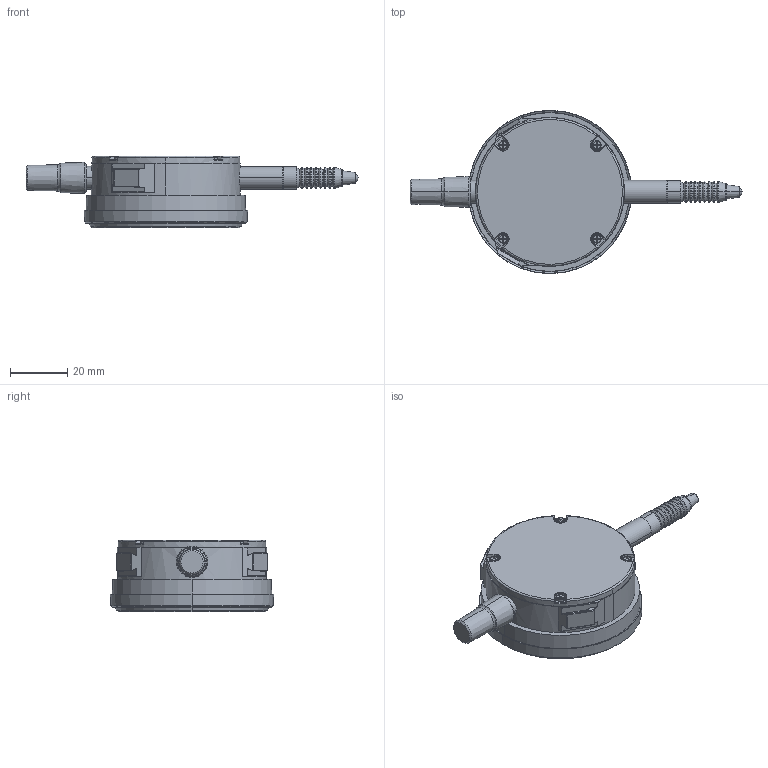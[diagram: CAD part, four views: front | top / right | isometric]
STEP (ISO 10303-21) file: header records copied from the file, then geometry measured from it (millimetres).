
FILE_DESCRIPTION(('Creo Elements/Direct Modeling STEP Export'),'2;1');
FILE_NAME('2900SB-70.stp','2020-03-23T10:52:40',(''),(''),'Creo Elements/Direct Modeling STEP processor for AP214 (Solid Model)','Creo Elements/Direct Modeling 18.1I 13-Aug-2016 (C) Parametric Technology GmbH','');
FILE_SCHEMA(('AUTOMOTIVE_DESIGN { 1 0 10303 214 1 1 1 1 }'));
Length unit declared in the file: millimetre
Products named in the file (2): 2900SB-70
Assembly tree (1 placements, depth 2):
  2900SB-70
    2900SB-70
Bounding box: 115.8 x 56.99 x 25.03 mm (x, y, z)
Volume: 60016.5 mm3; surface area: 11205.2 mm2
Topology: 1 solids, 1 shells, 347 faces, 865 edges, 536 vertices
Faces by surface type: plane 114, cone 68, cylinder 67, torus 64, bspline 32, sphere 2
Entity records: 14886 total; most frequent: CARTESIAN_POINT 7261, ORIENTED_EDGE 1726, DIRECTION 1448, EDGE_CURVE 863, VERTEX_POINT 536, AXIS2_PLACEMENT_3D 535, VECTOR 378, LINE 378
